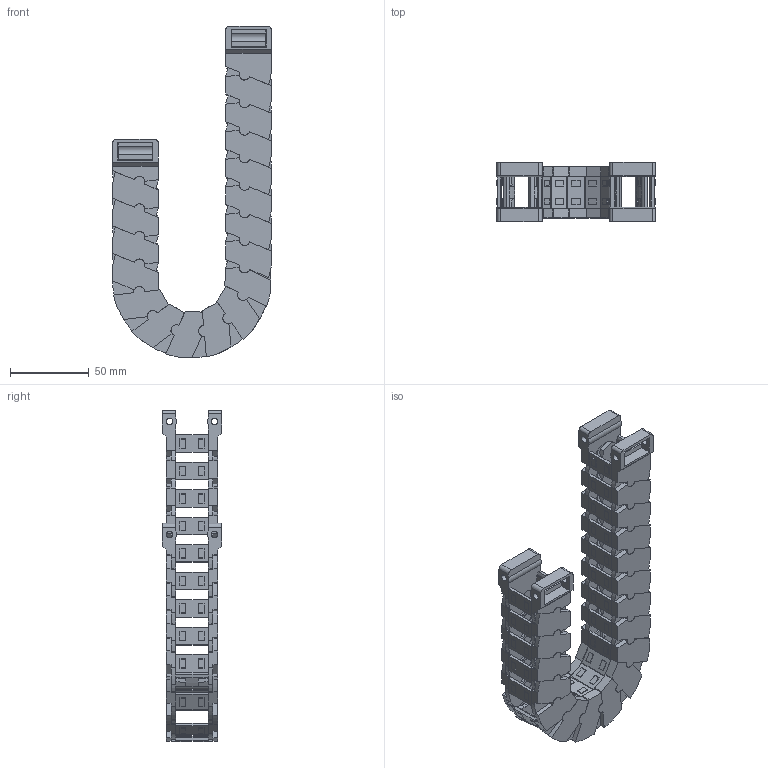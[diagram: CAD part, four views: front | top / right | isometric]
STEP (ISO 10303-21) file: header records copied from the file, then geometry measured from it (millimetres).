
FILE_DESCRIPTION(/* description */ (''),/* implementation_level */ '2;1');
FILE_NAME(/* name */ 'JY22-20-R35.stp',/* time_stamp */ '2026-06-20T14:05:15+08:00',/* author */ (''),/* organization */ (''),/* preprocessor_version */ 'ST-DEVELOPER v19.4',/* originating_system */ 'SIEMENS PLM Software NX2306.5001',/* authorisation */ '');
FILE_SCHEMA (('AP203_CONFIGURATION_CONTROLLED_3D_DESIGN_OF_MECHANICAL_PARTS_AND_ASSEMBLIES_MIM_LF { 1 0 10303 403 2 1 2}'));
Products named in the file (1): 简易图纸_objects
Bounding box: 100.88 x 37.5 x 210.31 mm (x, y, z)
Volume: 130997.2 mm3; surface area: 116786 mm2
Topology: 19 solids, 19 shells, 3140 faces, 10162 edges, 6766 vertices
Faces by surface type: plane 2354, cylinder 502, cone 144, bspline 140
Full cylindrical faces by diameter (mm): 4.2 x8, 7 x36, 7.1 x36
Entity records: 116691 total; most frequent: CARTESIAN_POINT 27541, ORIENTED_EDGE 20004, DIRECTION 17282, EDGE_CURVE 10002, LINE 6856, VECTOR 6856, VERTEX_POINT 6686, AXIS2_PLACEMENT_3D 5213
